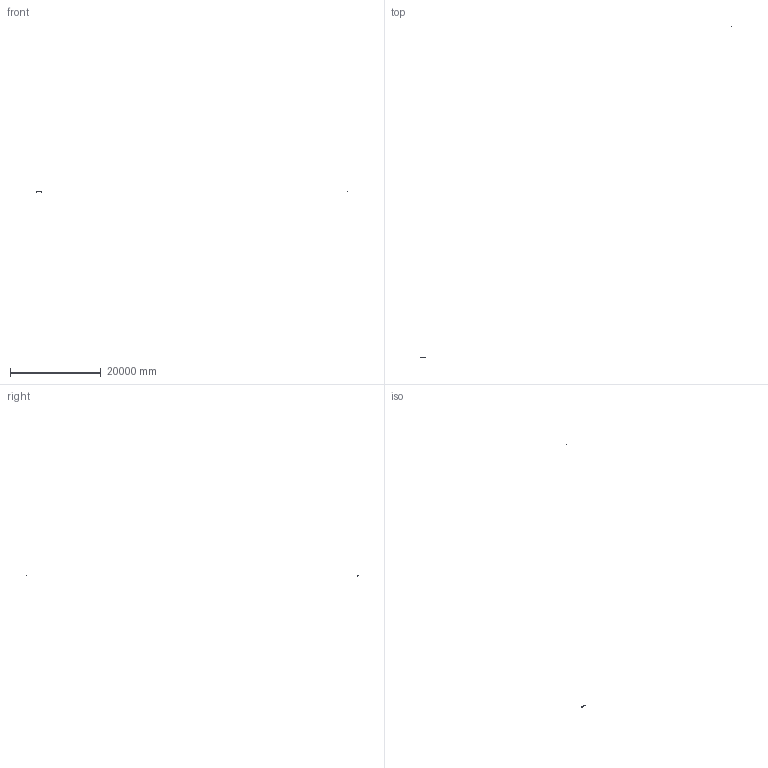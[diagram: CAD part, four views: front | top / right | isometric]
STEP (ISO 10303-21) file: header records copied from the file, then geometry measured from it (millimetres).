
FILE_DESCRIPTION(('Creo Elements/Direct Modeling STEP Export'),'2;1');
FILE_NAME('3D-Model_MLCSCW2_1120-48-R_yzz G3_(WU-M-763)_BC.stp','2025-05-06T15:30:26',(''),(''),'PTC Creo Elements/Direct Modeling STEP processor for AP214 (Solid Model)','PTC Creo Elements/Direct Modeling 19.0E 27-Jun-2016 (C) Parametric Technology GmbH','');
FILE_SCHEMA(('AUTOMOTIVE_DESIGN { 1 0 10303 214 1 1 1 1 }'));
Length unit declared in the file: millimetre
Products named in the file (239): p1.1; p1.5; p1.2; p1.4; p1.3; p1; PRINT.75; PRINT.77; PRINT.73; PRINT.74; PRINT.76; PRINT.68; PRINT.69; PRINT.78; PRINT.71; PRINT.70; PRINT.72; PRINT.24; PRINT.25; PRINT.15; PRINT.16; PRINT.23; PRINT.18; PRINT.20; PRINT.21; PRINT.17; PRINT.19; PRINT.22; PRINT.13; PRINT.14; PRINT.6; PRINT.7; PRINT.8; PRINT; PRINT.2; PRINT.1; PRINT.3; PRINT.4; PRINT.5; PRINT.10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
Assembly tree (230 placements, depth 2):
  p1.5
    p1.1
  p1.4
    p1.2
  p1.3
  p1.2
    p1.2
  p1.1
    p1.1
Bounding box: 68320.02 x 73000.67 x 7.4 mm (x, y, z)
Volume: 22826.9 mm3; surface area: 51313.7 mm2
Topology: 227 solids, 227 shells, 11870 faces, 32374 edges, 21226 vertices
Faces by surface type: plane 9443, cylinder 2415, cone 8, bspline 4
Entity records: 143272 total; most frequent: CARTESIAN_POINT 20119, ORIENTED_EDGE 18958, DIRECTION 18586, EDGE_CURVE 9479, VECTOR 7634, LINE 7634, VERTEX_POINT 6311, AXIS2_PLACEMENT_3D 5476
